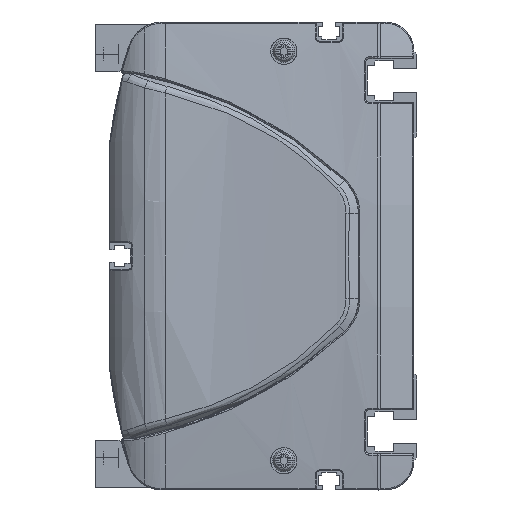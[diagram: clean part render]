
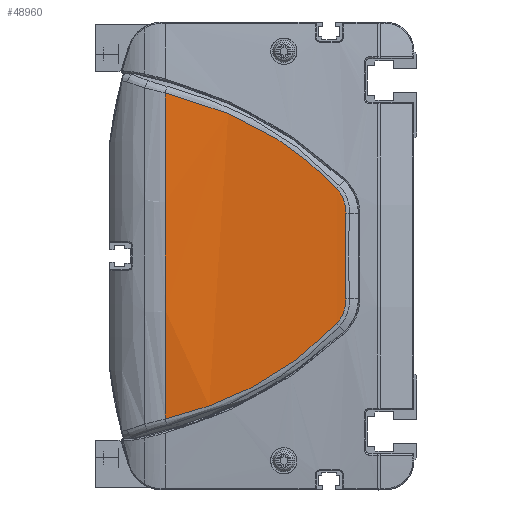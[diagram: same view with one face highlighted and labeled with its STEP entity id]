
A CAD part, left-side view. The second image highlights one B-rep face of the part: STEP entity #48960.
In plain terms, the highlighted cylindrical face has radius 600 mm (diameter 1200 mm), a partial arc.
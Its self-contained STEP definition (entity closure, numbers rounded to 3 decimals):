
#43979=CARTESIAN_POINT('',(-12.406,86.,
55.736));
#43980=CARTESIAN_POINT('',(-12.529,80.495,
54.41));
#43981=CARTESIAN_POINT('',(-12.828,69.636,
51.114));
#43982=CARTESIAN_POINT('',(-13.389,54.079,
44.179));
#43983=CARTESIAN_POINT('',(-14.01,39.709,
34.979));
#43984=CARTESIAN_POINT('',(-14.395,31.353,
27.243));
#43985=CARTESIAN_POINT('',(-14.555,27.451,
23.113));
#43987=CARTESIAN_POINT('',(-14.555,27.451,
23.113));
#43988=CARTESIAN_POINT('',(-14.641,25.336,
20.875));
#43989=CARTESIAN_POINT('',(-14.745,24.202,
17.745));
#43990=CARTESIAN_POINT('',(-14.821,24.351,
14.67));
#43992=CARTESIAN_POINT('',(-14.821,24.351,
14.67));
#43993=CARTESIAN_POINT('',(-14.9,24.51,
11.413));
#43994=CARTESIAN_POINT('',(-15.007,24.721,
4.895));
#43995=CARTESIAN_POINT('',(-15.007,24.721,
-4.895));
#43996=CARTESIAN_POINT('',(-14.9,24.51,
-11.413));
#43997=CARTESIAN_POINT('',(-14.821,24.351,
-14.67));
#43999=CARTESIAN_POINT('',(-14.821,24.351,
-14.67));
#44000=CARTESIAN_POINT('',(-14.745,24.202,
-17.745));
#44001=CARTESIAN_POINT('',(-14.641,25.337,
-20.876));
#44002=CARTESIAN_POINT('',(-14.555,27.451,
-23.113));
#44004=CARTESIAN_POINT('',(-14.555,27.451,
-23.113));
#44005=CARTESIAN_POINT('',(-14.395,31.353,
-27.243));
#44006=CARTESIAN_POINT('',(-14.01,39.709,
-34.979));
#44007=CARTESIAN_POINT('',(-13.389,54.079,
-44.179));
#44008=CARTESIAN_POINT('',(-12.828,69.636,
-51.114));
#44009=CARTESIAN_POINT('',(-12.529,80.495,
-54.41));
#44010=CARTESIAN_POINT('',(-12.406,86.,
-55.736));
#44012=CARTESIAN_POINT('',(585.,86.,0.));
#44013=DIRECTION('',(0.,1.,0.));
#44014=DIRECTION('',(-0.996,0.,-0.093));
#44015=AXIS2_PLACEMENT_3D('',#44012,#44013,#44014);
#44028=CARTESIAN_POINT('',(-12.406,86.,
55.736));
#44536=VERTEX_POINT('',#44028);
#44537=CARTESIAN_POINT('',(-12.406,86.,
-55.736));
#44538=VERTEX_POINT('',#44537);
#44590=VERTEX_POINT('',#43985);
#44591=VERTEX_POINT('',#43990);
#44592=VERTEX_POINT('',#43997);
#44593=VERTEX_POINT('',#44002);
#48942=CARTESIAN_POINT('',(585.,87.45,0.));
#48943=DIRECTION('',(0.,-1.,0.));
#48944=DIRECTION('',(0.,0.,-1.));
#48945=AXIS2_PLACEMENT_3D('',#48942,#48943,#48944);
#48946=CYLINDRICAL_SURFACE('',#48945,600.);
#48948=ORIENTED_EDGE('',*,*,#48947,.T.);
#48950=ORIENTED_EDGE('',*,*,#48949,.T.);
#48951=ORIENTED_EDGE('',*,*,#48932,.T.);
#48953=ORIENTED_EDGE('',*,*,#48952,.T.);
#48955=ORIENTED_EDGE('',*,*,#48954,.T.);
#48957=ORIENTED_EDGE('',*,*,#48956,.T.);
#48958=EDGE_LOOP('',(#48948,#48950,#48951,#48953,#48955,#48957));
#48959=FACE_OUTER_BOUND('',#48958,.F.);
#48960=ADVANCED_FACE('',(#48959),#48946,.T.);
#43986=B_SPLINE_CURVE_WITH_KNOTS('',3,(#43979,#43980,#43981,#43982,#43983,
#43984,#43985),.UNSPECIFIED.,.F.,.F.,(4,1,1,1,4),(0.,0.25,0.5,0.75,
1.),.UNSPECIFIED.);
#43991=B_SPLINE_CURVE_WITH_KNOTS('',3,(#43987,#43988,#43989,#43990),
.UNSPECIFIED.,.F.,.F.,(4,4),(0.,1.),.UNSPECIFIED.);
#43998=B_SPLINE_CURVE_WITH_KNOTS('',3,(#43992,#43993,#43994,#43995,#43996,
#43997),.UNSPECIFIED.,.F.,.F.,(4,1,1,4),(0.,0.333,
0.667,1.),.UNSPECIFIED.);
#44003=B_SPLINE_CURVE_WITH_KNOTS('',3,(#43999,#44000,#44001,#44002),
.UNSPECIFIED.,.F.,.F.,(4,4),(0.,1.),.UNSPECIFIED.);
#44011=B_SPLINE_CURVE_WITH_KNOTS('',3,(#44004,#44005,#44006,#44007,#44008,
#44009,#44010),.UNSPECIFIED.,.F.,.F.,(4,1,1,1,4),(0.,0.25,0.5,0.75,
1.),.UNSPECIFIED.);
#44016=CIRCLE('',#44015,600.);
#48932=EDGE_CURVE('',#44591,#44592,#43998,.T.);
#48947=EDGE_CURVE('',#44536,#44590,#43986,.T.);
#48949=EDGE_CURVE('',#44590,#44591,#43991,.T.);
#48952=EDGE_CURVE('',#44592,#44593,#44003,.T.);
#48954=EDGE_CURVE('',#44593,#44538,#44011,.T.);
#48956=EDGE_CURVE('',#44538,#44536,#44016,.T.);
